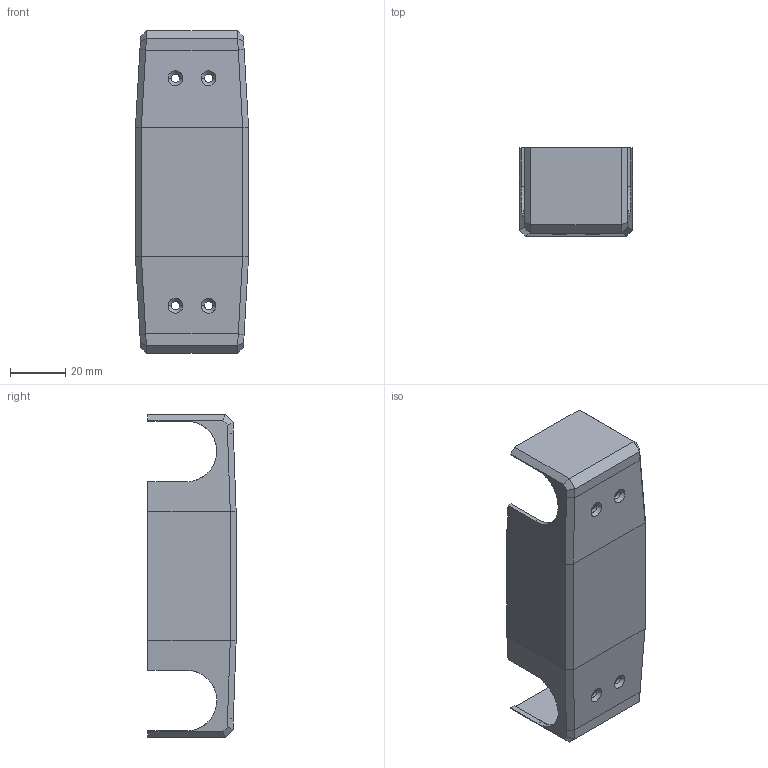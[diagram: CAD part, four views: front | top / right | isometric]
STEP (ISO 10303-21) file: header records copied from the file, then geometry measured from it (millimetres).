
FILE_DESCRIPTION((''),'2;1');
FILE_NAME('OP3_UPPER_ARM_CASE_VER1','2017-07-24T',('kimdolyang'),(''),'PRO/ENGINEER BY PARAMETRIC TECHNOLOGY CORPORATION, 2013410','PRO/ENGINEER BY PARAMETRIC TECHNOLOGY CORPORATION, 2013410','');
FILE_SCHEMA(('CONFIG_CONTROL_DESIGN'));
Length unit declared in the file: millimetre
Products named in the file (1): OP3_UPPER_ARM_CASE_VER1
Bounding box: 41 x 32 x 117 mm (x, y, z)
Volume: 16917.7 mm3; surface area: 23355.6 mm2
Topology: 1 solids, 1 shells, 110 faces, 288 edges, 184 vertices
Faces by surface type: plane 82, cylinder 20, bspline 8
Entity records: 4326 total; most frequent: CARTESIAN_POINT 1662, ORIENTED_EDGE 576, DIRECTION 468, EDGE_CURVE 288, VECTOR 232, LINE 232, VERTEX_POINT 184, EDGE_LOOP 122
